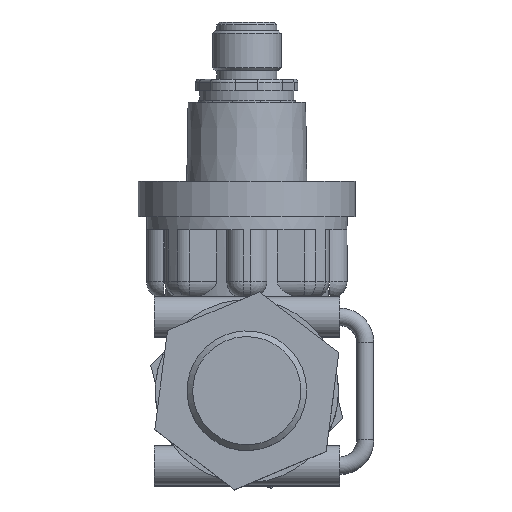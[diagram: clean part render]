
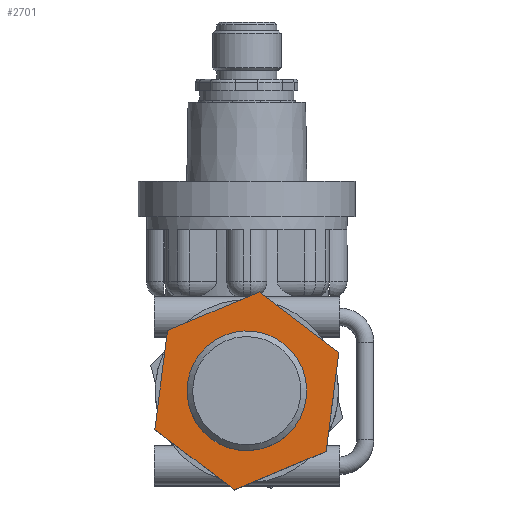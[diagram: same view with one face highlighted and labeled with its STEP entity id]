
A CAD part, top view. The second image highlights one B-rep face of the part: STEP entity #2701.
In plain terms, the highlighted planar face has unit normal (0, 0, 1).
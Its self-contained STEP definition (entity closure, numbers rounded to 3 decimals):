
#89=PLANE($,#3030);
#192=LINE($,#4727,#348);
#194=LINE($,#4731,#350);
#196=LINE($,#4735,#352);
#199=LINE($,#4740,#355);
#200=LINE($,#4743,#356);
#202=LINE($,#4746,#358);
#348=VECTOR($,#3670,17.414);
#350=VECTOR($,#3674,17.414);
#352=VECTOR($,#3678,17.414);
#355=VECTOR($,#3683,17.414);
#356=VECTOR($,#3686,17.414);
#358=VECTOR($,#3690,17.414);
#640=FACE_OUTER_BOUND($,#822,.T.);
#822=EDGE_LOOP($,(#2154,#2155,#2156,#2157,#2158,#2159));
#1238=VERTEX_POINT($,#4724);
#1239=VERTEX_POINT($,#4726);
#1240=VERTEX_POINT($,#4730);
#1241=VERTEX_POINT($,#4734);
#1242=VERTEX_POINT($,#4738);
#1243=VERTEX_POINT($,#4742);
#1565=EDGE_CURVE($,#1239,#1238,#192,.T.);
#1567=EDGE_CURVE($,#1240,#1239,#194,.T.);
#1569=EDGE_CURVE($,#1241,#1240,#196,.T.);
#1572=EDGE_CURVE($,#1238,#1242,#199,.T.);
#1573=EDGE_CURVE($,#1243,#1241,#200,.T.);
#1575=EDGE_CURVE($,#1242,#1243,#202,.T.);
#2154=ORIENTED_EDGE($,*,*,#1575,.T.);
#2155=ORIENTED_EDGE($,*,*,#1573,.T.);
#2156=ORIENTED_EDGE($,*,*,#1569,.T.);
#2157=ORIENTED_EDGE($,*,*,#1567,.T.);
#2158=ORIENTED_EDGE($,*,*,#1565,.T.);
#2159=ORIENTED_EDGE($,*,*,#1572,.T.);
#2701=ADVANCED_FACE($,(#640),#89,.T.);
#3030=AXIS2_PLACEMENT_3D($,#4747,#3691,#3692);
#3670=DIRECTION($,(0.923,0.386,0.));
#3674=DIRECTION($,(0.795,-0.606,0.));
#3678=DIRECTION($,(-0.127,-0.992,0.));
#3683=DIRECTION($,(0.127,0.992,0.));
#3686=DIRECTION($,(-0.923,-0.386,0.));
#3690=DIRECTION($,(-0.795,0.606,0.));
#3691=DIRECTION('center_axis',(0.,0.,
1.));
#3692=DIRECTION('ref_axis',(-0.386,0.923,0.));
#4724=CARTESIAN_POINT('',(13.852,-10.554,47.28));
#4726=CARTESIAN_POINT('',(-2.214,-17.273,47.28));
#4727=CARTESIAN_POINT($,(13.852,-10.554,47.28));
#4730=CARTESIAN_POINT('',(-16.066,-6.719,47.28));
#4731=CARTESIAN_POINT($,(-2.214,-17.273,47.28));
#4734=CARTESIAN_POINT('',(-13.852,10.554,47.28));
#4735=CARTESIAN_POINT($,(-16.066,-6.719,47.28));
#4738=CARTESIAN_POINT('',(16.066,6.719,47.28));
#4740=CARTESIAN_POINT($,(16.066,6.719,47.28));
#4742=CARTESIAN_POINT('',(2.214,17.273,47.28));
#4743=CARTESIAN_POINT($,(-13.852,10.554,47.28));
#4746=CARTESIAN_POINT($,(2.214,17.273,47.28));
#4747=CARTESIAN_POINT('Origin',(0.,0.,
47.28));
